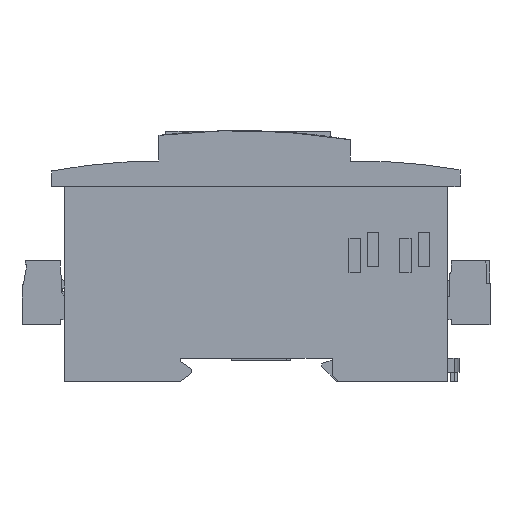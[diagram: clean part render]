
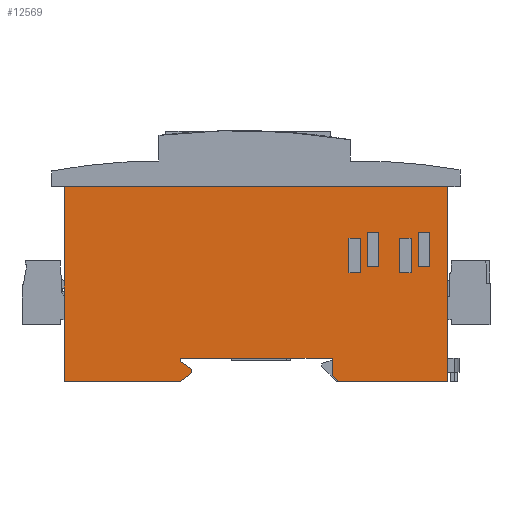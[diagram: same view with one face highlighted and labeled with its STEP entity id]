
A CAD part, left-side view. The second image highlights one B-rep face of the part: STEP entity #12569.
In plain terms, the highlighted planar face has unit normal (-1, 0, 0).
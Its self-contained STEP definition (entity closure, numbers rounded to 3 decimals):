
#2569=DIRECTION('',(0.,-1.,0.));
#2570=VECTOR('',#2569,90.);
#2571=CARTESIAN_POINT('',(10.81,100.05,45.8));
#2572=LINE('',#2571,#2570);
#2576=DIRECTION('',(0.,0.,-1.));
#2577=VECTOR('',#2576,45.8);
#2578=CARTESIAN_POINT('',(10.81,10.05,45.8));
#2579=LINE('',#2578,#2577);
#2583=DIRECTION('',(0.,1.,0.));
#2584=VECTOR('',#2583,25.55);
#2585=CARTESIAN_POINT('',(10.81,10.05,0.));
#2586=LINE('',#2585,#2584);
#2590=DIRECTION('',(0.,0.707,0.707));
#2591=VECTOR('',#2590,2.072);
#2592=CARTESIAN_POINT('',(10.81,35.6,0.));
#2593=LINE('',#2592,#2591);
#2597=DIRECTION('',(0.,0.009,1.));
#2598=VECTOR('',#2597,4.035);
#2599=CARTESIAN_POINT('',(10.81,37.065,1.465));
#2600=LINE('',#2599,#2598);
#2604=DIRECTION('',(0.,1.,0.));
#2605=VECTOR('',#2604,35.701);
#2606=CARTESIAN_POINT('',(10.81,37.1,5.5));
#2607=LINE('',#2606,#2605);
#2611=CARTESIAN_POINT('',(10.81,72.801,5.5));
#2612=CARTESIAN_POINT('',(10.81,72.803,5.235));
#2613=CARTESIAN_POINT('',(10.81,72.804,4.969));
#2614=CARTESIAN_POINT('',(10.81,72.806,4.704));
#2619=DIRECTION('',(0.,-0.819,-0.573));
#2620=VECTOR('',#2619,3.181);
#2621=CARTESIAN_POINT('',(10.81,72.806,4.704));
#2622=LINE('',#2621,#2620);
#2626=DIRECTION('',(0.,0.,-1.));
#2627=VECTOR('',#2626,0.88);
#2628=CARTESIAN_POINT('',(10.81,70.2,2.88));
#2629=LINE('',#2628,#2627);
#2633=DIRECTION('',(0.,0.793,-0.61));
#2634=VECTOR('',#2633,3.28);
#2635=CARTESIAN_POINT('',(10.81,70.2,2.));
#2636=LINE('',#2635,#2634);
#2640=DIRECTION('',(0.,1.,0.));
#2641=VECTOR('',#2640,27.25);
#2642=CARTESIAN_POINT('',(10.81,72.8,0.));
#2643=LINE('',#2642,#2641);
#2647=DIRECTION('',(0.,0.,1.));
#2648=VECTOR('',#2647,8.);
#2649=CARTESIAN_POINT('',(10.81,14.2,27.));
#2650=LINE('',#2649,#2648);
#2654=DIRECTION('',(0.,1.,0.));
#2655=VECTOR('',#2654,2.7);
#2656=CARTESIAN_POINT('',(10.81,14.2,35.));
#2657=LINE('',#2656,#2655);
#2661=DIRECTION('',(0.,0.,-1.));
#2662=VECTOR('',#2661,8.);
#2663=CARTESIAN_POINT('',(10.81,16.9,35.));
#2664=LINE('',#2663,#2662);
#2668=DIRECTION('',(0.,-1.,0.));
#2669=VECTOR('',#2668,2.7);
#2670=CARTESIAN_POINT('',(10.81,16.9,27.));
#2671=LINE('',#2670,#2669);
#2675=DIRECTION('',(0.,1.,0.));
#2676=VECTOR('',#2675,2.7);
#2677=CARTESIAN_POINT('',(10.81,18.55,33.6));
#2678=LINE('',#2677,#2676);
#2682=DIRECTION('',(0.,0.,-1.));
#2683=VECTOR('',#2682,8.);
#2684=CARTESIAN_POINT('',(10.81,21.25,33.6));
#2685=LINE('',#2684,#2683);
#2689=DIRECTION('',(0.,-1.,0.));
#2690=VECTOR('',#2689,2.7);
#2691=CARTESIAN_POINT('',(10.81,21.25,25.6));
#2692=LINE('',#2691,#2690);
#2696=DIRECTION('',(0.,0.,1.));
#2697=VECTOR('',#2696,8.);
#2698=CARTESIAN_POINT('',(10.81,18.55,25.6));
#2699=LINE('',#2698,#2697);
#2703=DIRECTION('',(0.,1.,0.));
#2704=VECTOR('',#2703,2.7);
#2705=CARTESIAN_POINT('',(10.81,26.1,35.));
#2706=LINE('',#2705,#2704);
#2710=DIRECTION('',(0.,0.,-1.));
#2711=VECTOR('',#2710,8.);
#2712=CARTESIAN_POINT('',(10.81,28.8,35.));
#2713=LINE('',#2712,#2711);
#2717=DIRECTION('',(0.,-1.,0.));
#2718=VECTOR('',#2717,2.7);
#2719=CARTESIAN_POINT('',(10.81,28.8,27.));
#2720=LINE('',#2719,#2718);
#2724=DIRECTION('',(0.,0.,1.));
#2725=VECTOR('',#2724,8.);
#2726=CARTESIAN_POINT('',(10.81,26.1,27.));
#2727=LINE('',#2726,#2725);
#2731=DIRECTION('',(0.,1.,0.));
#2732=VECTOR('',#2731,2.7);
#2733=CARTESIAN_POINT('',(10.81,30.45,33.6));
#2734=LINE('',#2733,#2732);
#2738=DIRECTION('',(0.,0.,-1.));
#2739=VECTOR('',#2738,8.);
#2740=CARTESIAN_POINT('',(10.81,33.15,33.6));
#2741=LINE('',#2740,#2739);
#2745=DIRECTION('',(0.,-1.,0.));
#2746=VECTOR('',#2745,2.7);
#2747=CARTESIAN_POINT('',(10.81,33.15,25.6));
#2748=LINE('',#2747,#2746);
#2752=DIRECTION('',(0.,0.,1.));
#2753=VECTOR('',#2752,8.);
#2754=CARTESIAN_POINT('',(10.81,30.45,25.6));
#2755=LINE('',#2754,#2753);
#2780=DIRECTION('',(0.,0.,-1.));
#2781=VECTOR('',#2780,45.8);
#2782=CARTESIAN_POINT('',(10.81,100.05,45.8));
#2783=LINE('',#2782,#2781);
#9042=CARTESIAN_POINT('',(10.81,100.05,45.8));
#9044=VERTEX_POINT('',#9042);
#9045=CARTESIAN_POINT('',(10.81,100.05,0.));
#9046=VERTEX_POINT('',#9045);
#9054=CARTESIAN_POINT('',(10.81,10.05,45.8));
#9056=VERTEX_POINT('',#9054);
#9071=CARTESIAN_POINT('',(10.81,10.05,0.));
#9072=VERTEX_POINT('',#9071);
#9073=CARTESIAN_POINT('',(10.81,35.6,0.));
#9074=VERTEX_POINT('',#9073);
#9075=CARTESIAN_POINT('',(10.81,37.065,1.465));
#9076=VERTEX_POINT('',#9075);
#9077=CARTESIAN_POINT('',(10.81,37.1,5.5));
#9078=VERTEX_POINT('',#9077);
#9079=CARTESIAN_POINT('',(10.81,72.801,5.5));
#9080=VERTEX_POINT('',#9079);
#9081=VERTEX_POINT('',#2614);
#9082=CARTESIAN_POINT('',(10.81,70.2,2.88));
#9083=VERTEX_POINT('',#9082);
#9084=CARTESIAN_POINT('',(10.81,70.2,2.));
#9085=VERTEX_POINT('',#9084);
#9086=CARTESIAN_POINT('',(10.81,72.8,0.));
#9087=VERTEX_POINT('',#9086);
#10696=CARTESIAN_POINT('',(10.81,14.2,27.));
#10697=CARTESIAN_POINT('',(10.81,14.2,35.));
#10698=VERTEX_POINT('',#10696);
#10699=VERTEX_POINT('',#10697);
#10700=CARTESIAN_POINT('',(10.81,16.9,35.));
#10701=VERTEX_POINT('',#10700);
#10702=CARTESIAN_POINT('',(10.81,16.9,27.));
#10703=VERTEX_POINT('',#10702);
#10704=CARTESIAN_POINT('',(10.81,18.55,33.6));
#10705=CARTESIAN_POINT('',(10.81,21.25,33.6));
#10706=VERTEX_POINT('',#10704);
#10707=VERTEX_POINT('',#10705);
#10708=CARTESIAN_POINT('',(10.81,21.25,25.6));
#10709=VERTEX_POINT('',#10708);
#10710=CARTESIAN_POINT('',(10.81,18.55,25.6));
#10711=VERTEX_POINT('',#10710);
#10712=CARTESIAN_POINT('',(10.81,26.1,35.));
#10713=CARTESIAN_POINT('',(10.81,28.8,35.));
#10714=VERTEX_POINT('',#10712);
#10715=VERTEX_POINT('',#10713);
#10716=CARTESIAN_POINT('',(10.81,28.8,27.));
#10717=VERTEX_POINT('',#10716);
#10718=CARTESIAN_POINT('',(10.81,26.1,27.));
#10719=VERTEX_POINT('',#10718);
#10720=CARTESIAN_POINT('',(10.81,30.45,33.6));
#10721=CARTESIAN_POINT('',(10.81,33.15,33.6));
#10722=VERTEX_POINT('',#10720);
#10723=VERTEX_POINT('',#10721);
#10724=CARTESIAN_POINT('',(10.81,33.15,25.6));
#10725=VERTEX_POINT('',#10724);
#10726=CARTESIAN_POINT('',(10.81,30.45,25.6));
#10727=VERTEX_POINT('',#10726);
#12502=CARTESIAN_POINT('',(10.81,55.05,22.9));
#12503=DIRECTION('',(1.,0.,0.));
#12504=DIRECTION('',(0.,0.,1.));
#12505=AXIS2_PLACEMENT_3D('',#12502,#12503,#12504);
#12506=PLANE('',#12505);
#12508=ORIENTED_EDGE('',*,*,#12507,.T.);
#12509=ORIENTED_EDGE('',*,*,#11155,.T.);
#12510=ORIENTED_EDGE('',*,*,#12073,.T.);
#12512=ORIENTED_EDGE('',*,*,#12511,.T.);
#12513=ORIENTED_EDGE('',*,*,#12495,.T.);
#12514=ORIENTED_EDGE('',*,*,#11949,.T.);
#12516=ORIENTED_EDGE('',*,*,#12515,.T.);
#12518=ORIENTED_EDGE('',*,*,#12517,.T.);
#12520=ORIENTED_EDGE('',*,*,#12519,.T.);
#12522=ORIENTED_EDGE('',*,*,#12521,.T.);
#12524=ORIENTED_EDGE('',*,*,#12523,.T.);
#12526=ORIENTED_EDGE('',*,*,#12525,.F.);
#12527=EDGE_LOOP('',(#12508,#12509,#12510,#12512,#12513,#12514,#12516,#12518,
#12520,#12522,#12524,#12526));
#12528=FACE_OUTER_BOUND('',#12527,.F.);
#12530=ORIENTED_EDGE('',*,*,#12529,.T.);
#12532=ORIENTED_EDGE('',*,*,#12531,.T.);
#12534=ORIENTED_EDGE('',*,*,#12533,.T.);
#12536=ORIENTED_EDGE('',*,*,#12535,.T.);
#12537=EDGE_LOOP('',(#12530,#12532,#12534,#12536));
#12538=FACE_BOUND('',#12537,.F.);
#12540=ORIENTED_EDGE('',*,*,#12539,.T.);
#12542=ORIENTED_EDGE('',*,*,#12541,.T.);
#12544=ORIENTED_EDGE('',*,*,#12543,.T.);
#12546=ORIENTED_EDGE('',*,*,#12545,.T.);
#12547=EDGE_LOOP('',(#12540,#12542,#12544,#12546));
#12548=FACE_BOUND('',#12547,.F.);
#12550=ORIENTED_EDGE('',*,*,#12549,.T.);
#12552=ORIENTED_EDGE('',*,*,#12551,.T.);
#12554=ORIENTED_EDGE('',*,*,#12553,.T.);
#12556=ORIENTED_EDGE('',*,*,#12555,.T.);
#12557=EDGE_LOOP('',(#12550,#12552,#12554,#12556));
#12558=FACE_BOUND('',#12557,.F.);
#12560=ORIENTED_EDGE('',*,*,#12559,.T.);
#12562=ORIENTED_EDGE('',*,*,#12561,.T.);
#12564=ORIENTED_EDGE('',*,*,#12563,.T.);
#12566=ORIENTED_EDGE('',*,*,#12565,.T.);
#12567=EDGE_LOOP('',(#12560,#12562,#12564,#12566));
#12568=FACE_BOUND('',#12567,.F.);
#2615=B_SPLINE_CURVE_WITH_KNOTS('',3,(#2611,#2612,#2613,#2614),.UNSPECIFIED.,
.F.,.F.,(4,4),(0.,1.),.UNSPECIFIED.);
#11155=EDGE_CURVE('',#9056,#9072,#2579,.T.);
#11949=EDGE_CURVE('',#9078,#9080,#2607,.T.);
#12073=EDGE_CURVE('',#9072,#9074,#2586,.T.);
#12495=EDGE_CURVE('',#9076,#9078,#2600,.T.);
#12507=EDGE_CURVE('',#9044,#9056,#2572,.T.);
#12511=EDGE_CURVE('',#9074,#9076,#2593,.T.);
#12515=EDGE_CURVE('',#9080,#9081,#2615,.T.);
#12517=EDGE_CURVE('',#9081,#9083,#2622,.T.);
#12519=EDGE_CURVE('',#9083,#9085,#2629,.T.);
#12521=EDGE_CURVE('',#9085,#9087,#2636,.T.);
#12523=EDGE_CURVE('',#9087,#9046,#2643,.T.);
#12525=EDGE_CURVE('',#9044,#9046,#2783,.T.);
#12529=EDGE_CURVE('',#10698,#10699,#2650,.T.);
#12531=EDGE_CURVE('',#10699,#10701,#2657,.T.);
#12533=EDGE_CURVE('',#10701,#10703,#2664,.T.);
#12535=EDGE_CURVE('',#10703,#10698,#2671,.T.);
#12539=EDGE_CURVE('',#10706,#10707,#2678,.T.);
#12541=EDGE_CURVE('',#10707,#10709,#2685,.T.);
#12543=EDGE_CURVE('',#10709,#10711,#2692,.T.);
#12545=EDGE_CURVE('',#10711,#10706,#2699,.T.);
#12549=EDGE_CURVE('',#10714,#10715,#2706,.T.);
#12551=EDGE_CURVE('',#10715,#10717,#2713,.T.);
#12553=EDGE_CURVE('',#10717,#10719,#2720,.T.);
#12555=EDGE_CURVE('',#10719,#10714,#2727,.T.);
#12559=EDGE_CURVE('',#10722,#10723,#2734,.T.);
#12561=EDGE_CURVE('',#10723,#10725,#2741,.T.);
#12563=EDGE_CURVE('',#10725,#10727,#2748,.T.);
#12565=EDGE_CURVE('',#10727,#10722,#2755,.T.);
#12569=ADVANCED_FACE('',(#12528,#12538,#12548,#12558,#12568),#12506,.F.);
